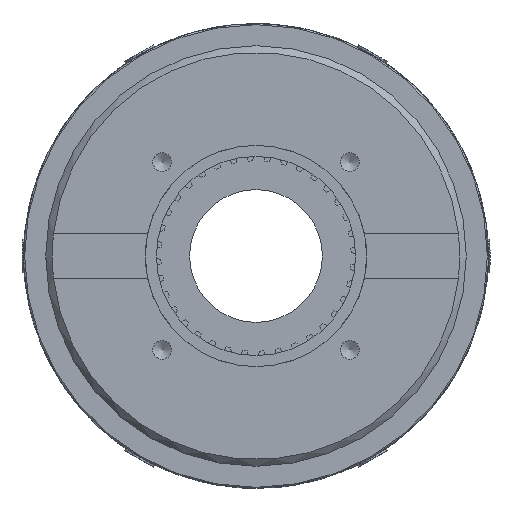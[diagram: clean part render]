
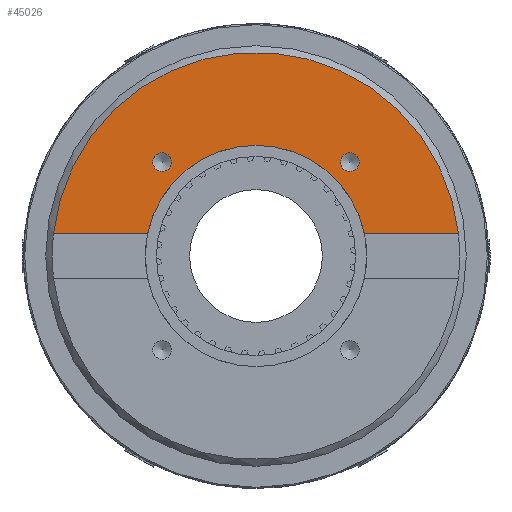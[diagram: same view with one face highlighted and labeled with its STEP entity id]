
A CAD part, left-side view. The second image highlights one B-rep face of the part: STEP entity #45026.
In plain terms, the highlighted planar face has unit normal (-1, 0, 0).
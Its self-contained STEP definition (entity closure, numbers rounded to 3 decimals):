
#486=PLANE('',#50914);
#3322=LINE('',#79641,#6135);
#3324=LINE('',#79647,#6137);
#6135=VECTOR('',#65371,10.);
#6137=VECTOR('',#65375,10.);
#9829=CIRCLE('',#50915,50.);
#9830=CIRCLE('',#50916,92.);
#9831=CIRCLE('',#50917,4.188);
#9832=CIRCLE('',#50918,4.188);
#10052=FACE_BOUND('',#14455,.T.);
#10053=FACE_BOUND('',#14456,.T.);
#12141=FACE_OUTER_BOUND('',#14454,.T.);
#14454=EDGE_LOOP('',(#38985,#38986,#38987,#38988));
#14455=EDGE_LOOP('',(#38989));
#14456=EDGE_LOOP('',(#38990));
#19000=VERTEX_POINT('',#79637);
#19001=VERTEX_POINT('',#79639);
#19002=VERTEX_POINT('',#79643);
#19004=VERTEX_POINT('',#79646);
#19007=VERTEX_POINT('',#79659);
#19008=VERTEX_POINT('',#79661);
#25684=EDGE_CURVE('',#19000,#19001,#3322,.T.);
#25686=EDGE_CURVE('',#19004,#19002,#3324,.T.);
#25692=EDGE_CURVE('',#19000,#19002,#9829,.T.);
#25693=EDGE_CURVE('',#19001,#19004,#9830,.T.);
#25694=EDGE_CURVE('',#19007,#19007,#9831,.T.);
#25695=EDGE_CURVE('',#19008,#19008,#9832,.T.);
#38985=ORIENTED_EDGE('',*,*,#25686,.T.);
#38986=ORIENTED_EDGE('',*,*,#25692,.F.);
#38987=ORIENTED_EDGE('',*,*,#25684,.T.);
#38988=ORIENTED_EDGE('',*,*,#25693,.T.);
#38989=ORIENTED_EDGE('',*,*,#25694,.T.);
#38990=ORIENTED_EDGE('',*,*,#25695,.T.);
#45026=ADVANCED_FACE('',(#12141,#10052,#10053),#486,.T.);
#50914=AXIS2_PLACEMENT_3D('',#79656,#65386,#65387);
#50915=AXIS2_PLACEMENT_3D('',#79657,#65388,#65389);
#50916=AXIS2_PLACEMENT_3D('',#79658,#65390,#65391);
#50917=AXIS2_PLACEMENT_3D('',#79660,#65392,#65393);
#50918=AXIS2_PLACEMENT_3D('',#79662,#65394,#65395);
#65371=DIRECTION('',(0.,-1.,0.));
#65375=DIRECTION('',(0.,-1.,0.));
#65386=DIRECTION('center_axis',(-1.,0.,0.));
#65387=DIRECTION('ref_axis',(0.,0.,1.));
#65388=DIRECTION('center_axis',(-1.,0.,0.));
#65389=DIRECTION('ref_axis',(0.,0.,1.));
#65390=DIRECTION('center_axis',(-1.,0.,0.));
#65391=DIRECTION('ref_axis',(0.,0.,1.));
#65392=DIRECTION('center_axis',(1.,0.,0.));
#65393=DIRECTION('ref_axis',(0.,1.,0.));
#65394=DIRECTION('center_axis',(1.,0.,0.));
#65395=DIRECTION('ref_axis',(0.,0.,1.));
#79637=CARTESIAN_POINT('',(-22.5,-48.99,10.));
#79639=CARTESIAN_POINT('',(-22.5,-91.455,10.));
#79641=CARTESIAN_POINT('',(-22.5,72.578,10.));
#79643=CARTESIAN_POINT('',(-22.5,48.99,10.));
#79646=CARTESIAN_POINT('',(-22.5,91.455,10.));
#79647=CARTESIAN_POINT('',(-22.5,72.578,10.));
#79656=CARTESIAN_POINT('Origin',(-22.5,50.,0.));
#79657=CARTESIAN_POINT('Origin',(-22.5,0.,0.));
#79658=CARTESIAN_POINT('Origin',(-22.5,0.,0.));
#79659=CARTESIAN_POINT('',(-22.5,38.238,42.426));
#79660=CARTESIAN_POINT('Origin',(-22.5,42.426,42.426));
#79661=CARTESIAN_POINT('',(-22.5,-42.426,38.238));
#79662=CARTESIAN_POINT('Origin',(-22.5,-42.426,42.426));
